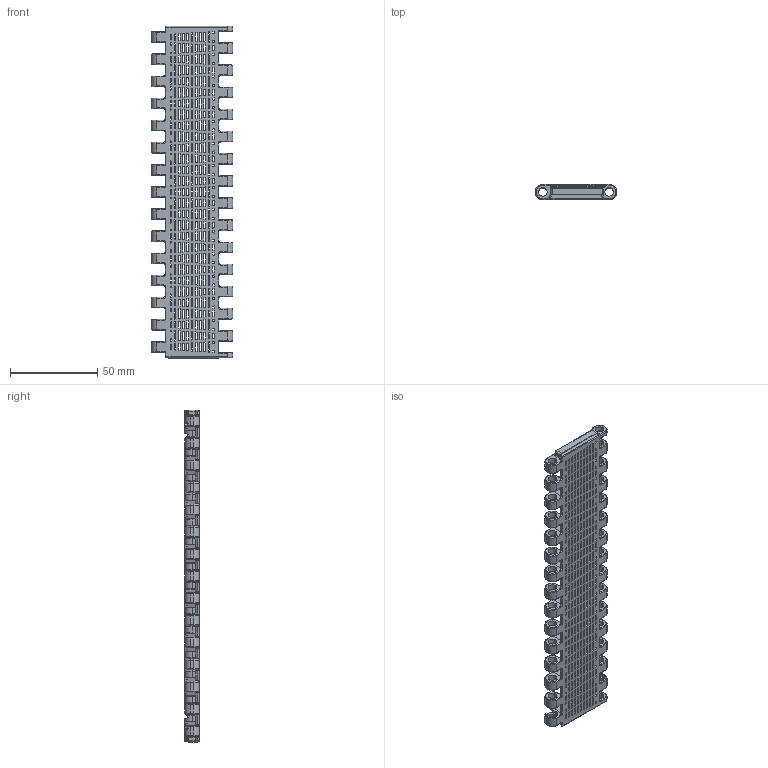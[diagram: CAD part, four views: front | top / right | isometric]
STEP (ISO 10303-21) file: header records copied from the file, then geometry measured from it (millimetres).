
FILE_DESCRIPTION((''),'2;1');
FILE_NAME('P439','2016-06-09T',('jas'),(''),'CREO PARAMETRIC BY PTC INC, 2016050','CREO PARAMETRIC BY PTC INC, 2016050','');
FILE_SCHEMA(('AUTOMOTIVE_DESIGN { 1 0 10303 214 1 1 1 1 }'));
Products named in the file (1): P439
Bounding box: 46.58 x 8.5 x 190.5 mm (x, y, z)
Volume: 20237.8 mm3; surface area: 30741.6 mm2
Topology: 1 solids, 1 shells, 2675 faces, 8191 edges, 5177 vertices
Faces by surface type: plane 1051, cylinder 1042, bspline 287, torus 255, sphere 36, cone 4
Entity records: 126329 total; most frequent: CARTESIAN_POINT 55623, ORIENTED_EDGE 16382, DIRECTION 12500, EDGE_CURVE 8191, VERTEX_POINT 5177, VECTOR 4876, LINE 4876, AXIS2_PLACEMENT_3D 3812
